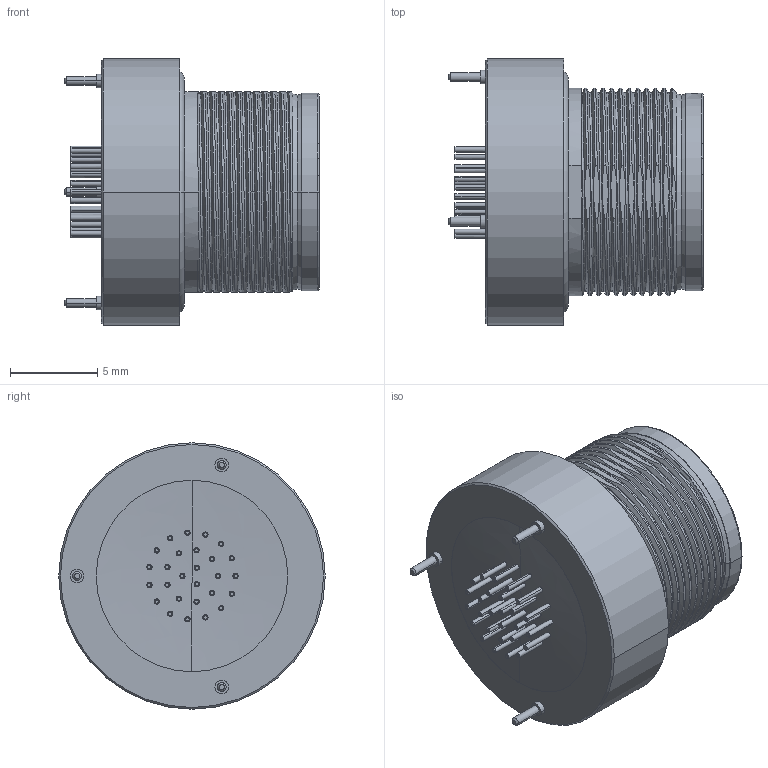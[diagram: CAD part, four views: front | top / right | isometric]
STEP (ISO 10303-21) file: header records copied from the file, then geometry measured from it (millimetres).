
FILE_DESCRIPTION((''),'2;1');
FILE_NAME('00058445-A_ASM','2020-10-30T11:20:04',('EUnterhaslberger'),(''),'CREO PARAMETRIC BY PTC INC, 2018300','CREO PARAMETRIC BY PTC INC, 2018300','');
FILE_SCHEMA(('AP242_MANAGED_MODEL_BASED_3D_ENGINEERING_MIM_LF { 1 0 10303 442 1 1 4 }'));
Length unit declared in the file: millimetre
Products named in the file (4): TEMP_SW_STEP_MONOBLOCK_1_1; TEMP_SW_STEP_MONOBLOCK_1_2; TEMP_SW_STEP_MONOBLOCK_1_ASM; 00058445-A_ASM
Assembly tree (3 placements, depth 3):
  00058445-A_ASM
    TEMP_SW_STEP_MONOBLOCK_1_ASM
      TEMP_SW_STEP_MONOBLOCK_1_1
      TEMP_SW_STEP_MONOBLOCK_1_2
Bounding box: 14.6 x 15.3 x 15.3 mm (x, y, z)
Volume: 1233.1 mm3; surface area: 1577.9 mm2
Topology: 2 solids, 2 shells, 717 faces, 1841 edges, 1247 vertices
Faces by surface type: plane 282, cylinder 271, cone 128, torus 21, bspline 15
Entity records: 36564 total; most frequent: CARTESIAN_POINT 13454, DIRECTION 3834, ORIENTED_EDGE 3678, EDGE_CURVE 1839, AXIS2_PLACEMENT_3D 1564, VERTEX_POINT 1247, CIRCLE 853, EDGE_LOOP 840
